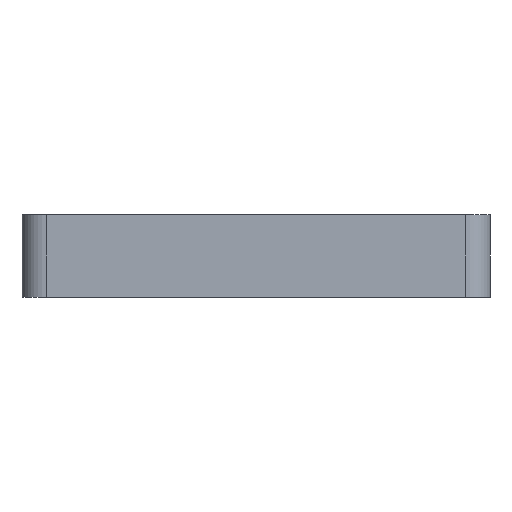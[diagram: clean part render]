
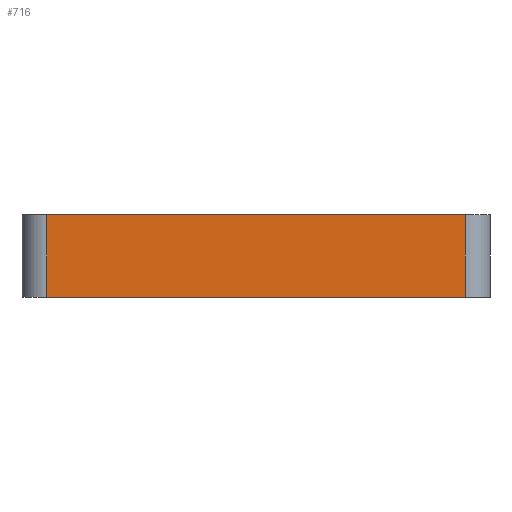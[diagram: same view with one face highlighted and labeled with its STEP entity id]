
A CAD part, front view. The second image highlights one B-rep face of the part: STEP entity #716.
In plain terms, the highlighted planar face has unit normal (0, -1, 0).
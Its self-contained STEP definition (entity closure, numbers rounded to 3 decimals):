
#660=CARTESIAN_POINT('Line Origine',(25.5,-28.5,5.)) ;
#664=CARTESIAN_POINT('Vertex',(25.5,-28.5,0.)) ;
#666=CARTESIAN_POINT('Vertex',(25.5,-28.5,10.)) ;
#686=CARTESIAN_POINT('Axis2P3D Location',(25.5,-28.5,0.)) ;
#691=CARTESIAN_POINT('Line Origine',(-25.5,-28.5,5.)) ;
#695=CARTESIAN_POINT('Vertex',(-25.5,-28.5,0.)) ;
#697=CARTESIAN_POINT('Vertex',(-25.5,-28.5,10.)) ;
#700=CARTESIAN_POINT('Line Origine',(0.,-28.5,0.)) ;
#705=CARTESIAN_POINT('Line Origine',(0.,-28.5,10.)) ;
#661=DIRECTION('Vector Direction',(0.,0.,1.)) ;
#687=DIRECTION('Axis2P3D Direction',(0.,1.,-0.)) ;
#688=DIRECTION('Axis2P3D XDirection',(-1.,0.,0.)) ;
#692=DIRECTION('Vector Direction',(0.,0.,1.)) ;
#701=DIRECTION('Vector Direction',(-1.,0.,0.)) ;
#706=DIRECTION('Vector Direction',(-1.,0.,0.)) ;
#689=AXIS2_PLACEMENT_3D('Plane Axis2P3D',#686,#687,#688) ;
#711=ORIENTED_EDGE('',*,*,#699,.F.) ;
#712=ORIENTED_EDGE('',*,*,#704,.T.) ;
#713=ORIENTED_EDGE('',*,*,#668,.T.) ;
#714=ORIENTED_EDGE('',*,*,#709,.F.) ;
#662=VECTOR('Line Direction',#661,1.) ;
#693=VECTOR('Line Direction',#692,1.) ;
#702=VECTOR('Line Direction',#701,1.) ;
#707=VECTOR('Line Direction',#706,1.) ;
#716=ADVANCED_FACE('Corps principal',(#715),#690,.F.) ;
#668=EDGE_CURVE('',#665,#667,#663,.T.) ;
#699=EDGE_CURVE('',#696,#698,#694,.T.) ;
#704=EDGE_CURVE('',#696,#665,#703,.F.) ;
#709=EDGE_CURVE('',#698,#667,#708,.F.) ;
#710=EDGE_LOOP('',(#711,#712,#713,#714)) ;
#715=FACE_OUTER_BOUND('',#710,.T.) ;
#663=LINE('Line',#660,#662) ;
#694=LINE('Line',#691,#693) ;
#703=LINE('Line',#700,#702) ;
#708=LINE('Line',#705,#707) ;
#690=PLANE('',#689) ;
#665=VERTEX_POINT('',#664) ;
#667=VERTEX_POINT('',#666) ;
#696=VERTEX_POINT('',#695) ;
#698=VERTEX_POINT('',#697) ;
